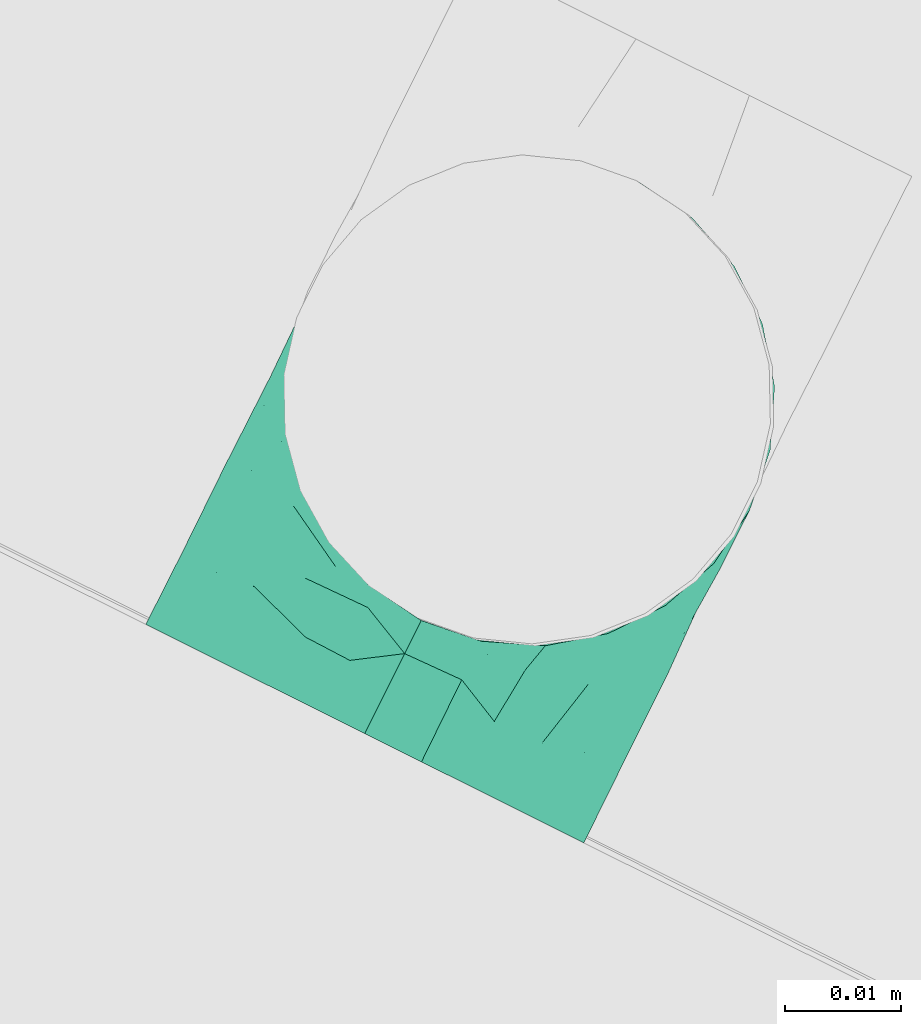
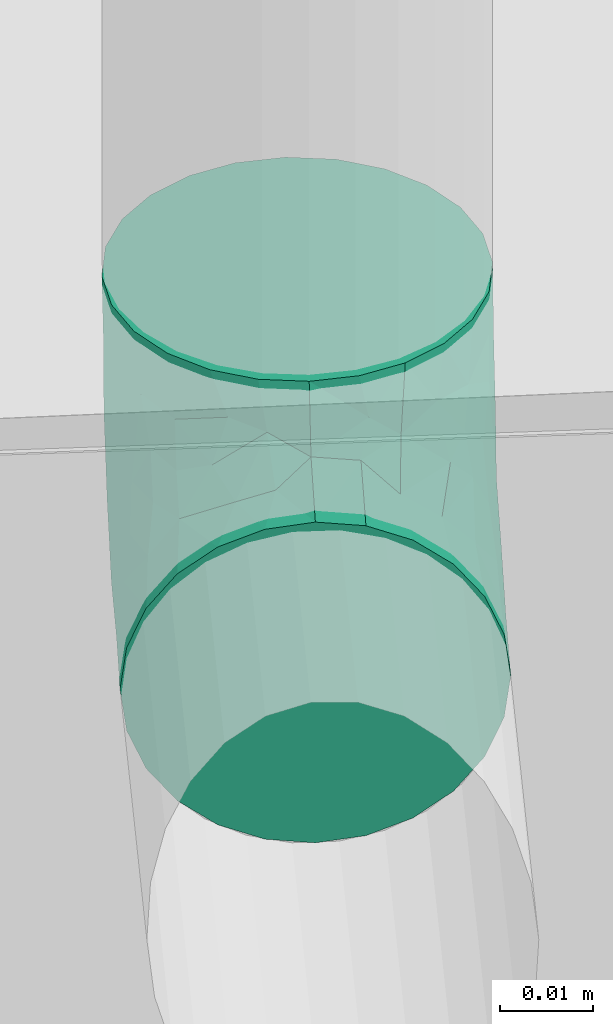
# One storey, part 45 of 47: 1 flow fitting.
"""IFC2X3 building model written with IfcOpenShell, lengths in metres."""

from ifc_helpers import new_model, entity, si_unit, converted_unit, derived_unit, direction, frame, origin, place, context, subcontext, project, spatial, faceted_brep, source, transform, mapped, type_object, type_shapes, element, save


model = new_model("IFC2X3")

# Units and contexts
model_context = context("Model", 3, precision=1e-05, world=origin(), true_north=direction((0.894925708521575, 0.446215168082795)))
context_of_model = context(None, 3, precision=1e-05, world=origin(), true_north=direction((0.894925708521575, 0.446215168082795)))
body_context = subcontext(model_context, "Body", "Model", "MODEL_VIEW")
ifc_project = project(units=[si_unit("LENGTHUNIT", "METRE"), si_unit("AREAUNIT", "SQUARE_METRE"), si_unit("VOLUMEUNIT", "CUBIC_METRE"), converted_unit("PLANEANGLEUNIT", "DEGREE", entity("IfcRatioMeasure", 0.0174532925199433), si_unit("PLANEANGLEUNIT", "RADIAN"), dimensions=[0, 0, 0, 0, 0, 0, 0]), si_unit("MASSUNIT", "GRAM", prefix="KILO"), si_unit("TIMEUNIT", "SECOND"), si_unit("FREQUENCYUNIT", "HERTZ"), si_unit("THERMODYNAMICTEMPERATUREUNIT", "DEGREE_CELSIUS"), derived_unit("THERMALTRANSMITTANCEUNIT", [(si_unit("MASSUNIT", "GRAM", prefix="KILO"), 1), (si_unit("THERMODYNAMICTEMPERATUREUNIT", "KELVIN"), -1), (si_unit("TIMEUNIT", "SECOND"), -3)]), derived_unit("VOLUMETRICFLOWRATEUNIT", [(si_unit("LENGTHUNIT", "METRE"), 3), (si_unit("TIMEUNIT", "SECOND"), -1)]), si_unit("ELECTRICCURRENTUNIT", "AMPERE"), si_unit("ELECTRICVOLTAGEUNIT", "VOLT"), si_unit("POWERUNIT", "WATT"), si_unit("FORCEUNIT", "NEWTON", prefix="KILO"), si_unit("ILLUMINANCEUNIT", "LUX"), si_unit("LUMINOUSFLUXUNIT", "LUMEN"), si_unit("LUMINOUSINTENSITYUNIT", "CANDELA"), si_unit("PRESSUREUNIT", "PASCAL")], contexts=[model_context, context_of_model])

# Site, building, storey
site_placement = place(None, frame((218.228324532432, 584.720189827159, 0.0), z_axis=(0.0, 0.0, 1.0), x_axis=(0.446215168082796, 0.894925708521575, 0.0)))
site = spatial("IfcSite", under=ifc_project, at=site_placement, Name="Default", CompositionType="ELEMENT")
building_placement = place(site_placement, origin())
building = spatial("IfcBuilding", under=site, at=building_placement, CompositionType="ELEMENT")
storey_placement = place(building_placement, frame((0.0, 0.0, 4.69)))
storey = spatial("IfcBuildingStorey", under=building, at=storey_placement, Name="1 - Piano Primo", CompositionType="ELEMENT", Elevation=4.69)

# Flow fitting
pipe_fitting_type = type_object("IfcPipeFittingType", Name="Standard", PredefinedType="NOTDEFINED")
shared_shape = source(origin(), body_context, "Body", "Brep", [
    faceted_brep([(-0.0319999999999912, 0.0105499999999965, -0.0182731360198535), (-0.0319999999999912, 0.00546108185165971, -0.0203810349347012), (-0.0319999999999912, 0.0, -0.0211000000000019), (-0.0319999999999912, -0.00546108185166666, -0.0203810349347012), (-0.0319999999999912, -0.0105500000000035, -0.0182731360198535), (-0.0319999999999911, -0.0149199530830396, -0.0149199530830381), (-0.0319999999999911, -0.0182731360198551, -0.0105500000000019), (-0.0319999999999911, -0.0203810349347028, -0.00546108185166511), (-0.0319999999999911, -0.0211000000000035, 0.0), (-0.0319999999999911, -0.0203810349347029, 0.00546108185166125), (-0.0319999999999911, -0.0182731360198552, 0.0105499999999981), (-0.0319999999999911, -0.0149199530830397, 0.0149199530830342), (-0.0319999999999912, -0.0105500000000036, 0.0182731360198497), (-0.0319999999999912, -0.00546108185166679, 0.0203810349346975), (-0.0319999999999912, 0.0, 0.0210999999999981), (-0.0319999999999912, 0.00546108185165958, 0.0203810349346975), (-0.0319999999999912, 0.00800554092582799, 0.0193270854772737), (-0.0319999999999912, 0.0105499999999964, 0.0182731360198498), (-0.0319999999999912, 0.0149199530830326, 0.0149199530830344), (-0.0319999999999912, 0.0182731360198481, 0.0105499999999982), (-0.0319999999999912, 0.0203810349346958, 0.00546108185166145), (-0.0319999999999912, 0.0210999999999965, 0.0), (-0.0319999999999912, 0.0203810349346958, -0.00546108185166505), (-0.0319999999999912, 0.0182731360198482, -0.0105500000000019), (-0.0319999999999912, 0.0149199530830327, -0.014919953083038), (4.33611531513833e-07, 0.0319999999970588, -0.0211000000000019), (-0.00546064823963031, 0.0320000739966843, -0.0203810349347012), (-0.0105495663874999, 0.0320001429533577, -0.0182731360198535), (-0.0149195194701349, 0.0320002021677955, -0.014919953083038), (-0.0182727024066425, 0.0320002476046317, -0.0105500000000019), (-0.0203806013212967, 0.032000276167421, -0.00546108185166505), (-0.0210995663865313, 0.0320002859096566, 0.0), (-0.0203806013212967, 0.032000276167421, 0.00546108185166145), (-0.0182727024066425, 0.0320002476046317, 0.0105499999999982), (-0.0149195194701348, 0.0320002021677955, 0.0149199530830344), (-0.0105495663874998, 0.0320001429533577, 0.0182731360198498), (-0.008005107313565, 0.032000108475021, 0.0193270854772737), (-0.00546064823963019, 0.0320000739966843, 0.0203810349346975), (4.33611531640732e-07, 0.0319999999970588, 0.0210999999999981), (0.00546151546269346, 0.0319999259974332, 0.0203810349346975), (0.0105504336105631, 0.0319998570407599, 0.0182731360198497), (0.014920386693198, 0.031999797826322, 0.0149199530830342), (0.0165969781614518, 0.0319997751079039, 0.0127349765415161), (0.0182735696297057, 0.0319997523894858, 0.0105499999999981), (0.0203814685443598, 0.0319997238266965, 0.00546108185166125), (0.0211004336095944, 0.031999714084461, 0.0), (0.0203814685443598, 0.0319997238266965, -0.00546108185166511), (0.0182735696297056, 0.0319997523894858, -0.0105500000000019), (0.0149203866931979, 0.031999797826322, -0.0149199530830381), (0.010550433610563, 0.0319998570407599, -0.0182731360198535), (0.00546151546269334, 0.0319999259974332, -0.0203810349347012), (-0.00222576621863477, 0.0237283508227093, 0.0210713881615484), (0.00334070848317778, 0.0236614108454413, 0.0206549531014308), (-0.00900618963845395, -0.00960560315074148, 0.0142766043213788), (-0.0209291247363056, -0.0130217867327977, 0.0154568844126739), (-0.0145906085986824, -0.0153912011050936, 0.0101692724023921), (-0.0217190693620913, -0.0190550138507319, 0.0), (-0.0220280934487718, -0.0191631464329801, 0.00633716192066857), (0.0170982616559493, 0.0147215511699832, 0.00657466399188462), (0.0192917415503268, 0.0230464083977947, 0.00652116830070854), (0.0165177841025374, 0.0200570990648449, 0.0110653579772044), (-0.0238199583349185, -0.0169139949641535, 0.0116484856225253), (0.00422150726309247, 0.00733563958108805, 0.0174775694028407), (-0.00183896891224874, -0.00157276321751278, 0.0165162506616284), (0.00494814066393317, 0.000860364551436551, 0.0133740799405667), (-0.023109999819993, -0.00858346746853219, 0.0188172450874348), (-0.0268497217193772, 0.00624648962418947, 0.0203052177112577), (-0.0237283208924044, 0.0022260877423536, 0.0210713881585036), (0.00636958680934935, -0.00389630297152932, 0.00481660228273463), (0.0088577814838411, 0.00100415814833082, 0.0085629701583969), (0.00317400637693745, -0.00493626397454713, 0.00916672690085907), (0.0190553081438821, 0.0217188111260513, 0.0), (-0.0249753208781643, 0.0127272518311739, 0.0176991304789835), (-0.0219437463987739, 0.00803539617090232, 0.0202256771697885), (-0.00803509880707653, 0.02194385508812, 0.0202256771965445), (-0.012726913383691, 0.0249754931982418, 0.0176991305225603), (-0.0135010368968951, 0.0178000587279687, 0.0192321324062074), (-0.0259093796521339, 0.016931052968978, 0.0140445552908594), (-0.0243637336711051, -0.0033650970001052, 0.0206817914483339), (-0.00831796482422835, -0.00215598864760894, 0.0188085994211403), (-0.0155457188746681, -0.00207477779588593, 0.0202758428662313), (-0.0149618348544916, -0.00661976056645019, 0.0184646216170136), (-0.0241166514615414, 0.0234835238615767, 0.00540850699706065), (-0.0260760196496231, 0.0202340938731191, 0.00952656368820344), (0.0131869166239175, 0.0228301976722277, 0.0156903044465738), (0.0177601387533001, 0.0259909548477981, 0.0108087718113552), (-0.0196181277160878, 0.0196183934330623, 0.0153381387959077), (0.00836728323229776, 0.0205043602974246, 0.0185949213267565), (-0.00542598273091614, 0.0157916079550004, 0.0210819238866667), (-0.0119914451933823, 0.0119916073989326, 0.0207723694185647), (-0.00791444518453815, 0.0058374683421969, 0.0207973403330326), (-0.000718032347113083, -0.00512207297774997, 0.0130949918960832), (-0.015791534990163, 0.00542619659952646, 0.0210819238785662), (-0.0175403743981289, 0.0125521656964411, 0.0196189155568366), (-0.00624612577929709, 0.0268498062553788, 0.0203052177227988), (-0.00306604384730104, -0.011302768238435, 0.0), (0.000545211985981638, -0.00927170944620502, 0.00474380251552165), (-0.00924004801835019, -0.0152714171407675, 0.00513666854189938), (-0.00250083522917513, 0.0039639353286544, 0.0192244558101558), (0.0111875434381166, 0.0121561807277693, 0.0142859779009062), (0.0142349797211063, 0.0135199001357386, 0.0113439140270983), (-0.0211733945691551, 0.027053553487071, 0.00642748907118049), (0.0170581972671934, 0.0116792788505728, 0.0), (-0.0209430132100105, 0.0244620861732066, 0.00992833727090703), (-0.0169307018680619, 0.0259096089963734, 0.0140445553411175), (0.00815760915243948, 0.0134414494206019, 0.0171881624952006), (0.00158989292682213, 0.0138946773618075, 0.0201812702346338), (-0.0242922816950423, 0.0242926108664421, 0.0), (-0.0156136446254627, -0.0173765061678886, 0.00665048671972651), (-0.0116795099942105, -0.017058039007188, 0.0), (0.00554742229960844, -0.00554749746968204, 0.0), (0.0113028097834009, 0.00306589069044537, 0.0), (0.0108451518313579, 0.00147665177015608, 0.00454025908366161), (0.0112958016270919, 0.00704561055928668, 0.0110547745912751), (-0.0180943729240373, 0.0165445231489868, 0.0178759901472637), (-0.0049788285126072, -0.0112745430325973, 0.00913950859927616), (-0.00893539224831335, -0.00624332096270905, 0.0168799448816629), (-0.0156913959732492, 0.0210349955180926, 0.0171094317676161), (-0.00342673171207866, 0.0112044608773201, 0.0208340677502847), (0.0134913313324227, 0.00703874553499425, 0.00704448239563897), (0.0084159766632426, 0.00627794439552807, 0.0138630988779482), (0.0139149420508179, 0.0140601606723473, -0.0120869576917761), (0.0170732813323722, 0.0143993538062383, -0.00631169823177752), (0.0133972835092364, 0.00669056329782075, -0.00679613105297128), (-0.0167699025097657, 0.00347567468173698, -0.0210973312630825), (-0.0230300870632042, 0.00785306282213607, -0.0201559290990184), (-0.0147343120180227, 0.0101849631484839, -0.0206819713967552), (-0.0249600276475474, 0.00216545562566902, -0.0210570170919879), (-0.0269234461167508, 0.0219306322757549, -0.0039689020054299), (-0.0108638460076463, -0.00653020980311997, -0.0173921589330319), (-0.0194617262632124, -0.00823409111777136, -0.0185024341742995), (-0.0125597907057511, -0.00220697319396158, -0.0197802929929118), (-0.0268337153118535, 0.0205122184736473, -0.0082881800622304), (-0.0248836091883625, 0.017183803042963, -0.0142474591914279), (-0.0228720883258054, -0.0192709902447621, -0.00648975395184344), (-0.0193464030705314, -0.0164084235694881, -0.0109523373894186), (-0.014399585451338, -0.0170730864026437, -0.0063116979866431), (-0.0266001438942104, -0.0170138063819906, -0.0120648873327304), (-0.00785275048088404, 0.0230301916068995, -0.0201559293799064), (-0.0252597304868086, 0.0126865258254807, -0.0176618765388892), (-0.0230840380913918, -0.00331004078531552, -0.0206322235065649), (-0.0200190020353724, 0.0119074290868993, -0.0192649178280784), (-0.0225714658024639, -0.0131689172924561, -0.0156588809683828), (0.0164086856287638, 0.0193461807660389, -0.0109523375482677), (0.0170141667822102, 0.026599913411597, -0.0120648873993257), (0.0192713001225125, 0.0228718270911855, -0.00648975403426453), (-0.0105317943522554, -0.0106441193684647, -0.0140486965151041), (-0.0171834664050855, 0.0248838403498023, -0.0142474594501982), (-0.0266864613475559, -0.00861264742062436, -0.0191036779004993), (0.00331035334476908, 0.0230839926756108, -0.020632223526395), (-0.0222935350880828, 0.0222938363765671, -0.0105496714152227), (-0.0203533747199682, 0.0203536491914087, -0.0142844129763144), (-0.0221524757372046, 0.0262370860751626, -0.00460948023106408), (-0.0080782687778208, 0.00807837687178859, -0.0210204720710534), (-0.0126861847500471, 0.0252599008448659, -0.0176618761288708), (-0.00216511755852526, 0.0249600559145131, -0.0210570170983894), (0.0131692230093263, 0.0225712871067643, -0.0156588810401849), (-0.0202230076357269, 0.0270428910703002, -0.00870082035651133), (0.00220714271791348, 0.0125597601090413, -0.0197802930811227), (0.00404628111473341, 0.00564692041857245, -0.0168859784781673), (-0.00350668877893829, 0.00350673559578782, -0.0194009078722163), (0.00861300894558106, 0.0266863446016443, -0.0191036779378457), (0.00823435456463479, 0.0194616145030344, -0.0185024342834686), (0.00902982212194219, 0.00178441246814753, -0.00926923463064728), (0.00883203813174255, -0.00110669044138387, -0.00471251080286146), (-0.00347544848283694, 0.0167699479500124, -0.021097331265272), (0.0120395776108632, 0.00786598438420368, -0.0106438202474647), (-0.00166025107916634, -0.00597198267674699, -0.0130196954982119), (-0.00858658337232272, -0.0124341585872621, -0.0106324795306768), (0.0106442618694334, 0.0105316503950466, -0.0140486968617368), (0.00627845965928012, 0.0123276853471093, -0.0179829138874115), (-0.0164379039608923, 0.0206141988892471, -0.0168365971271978), (-0.0160855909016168, 0.0160858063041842, -0.0188434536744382), (-0.0206139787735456, 0.0164381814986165, -0.0168365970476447), (-0.0106152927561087, 0.0161950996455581, -0.0203949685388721), (-0.00669074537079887, -0.0133971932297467, -0.00679613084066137), (0.00175974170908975, -0.00801864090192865, -0.00555190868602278), (-0.00301891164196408, -0.00338562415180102, -0.0160142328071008), (0.00342818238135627, -0.00342822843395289, -0.0108394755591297), (-0.00242982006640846, -0.00914605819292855, -0.00983181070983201), (-0.00670251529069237, -0.00186848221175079, -0.0184301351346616), (0.00640787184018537, 0.00275680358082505, -0.0134309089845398)], [[[0, 1, 2, 3, 4, 5, 6, 7, 8, 9, 10, 11, 12, 13, 14, 15, 16, 17, 18, 19, 20, 21, 22, 23, 24]], [[25, 26, 27, 28, 29, 30, 31, 32, 33, 34, 35, 36, 37, 38, 39, 40, 41, 42, 43, 44, 45, 46, 47, 48, 49, 50]], [[38, 51, 52]], [[53, 54, 55]], [[9, 56, 57]], [[58, 59, 60]], [[61, 11, 10]], [[9, 8, 56]], [[62, 63, 64]], [[54, 11, 61]], [[54, 65, 12]], [[17, 16, 15, 66]], [[15, 14, 67]], [[68, 69, 70]], [[45, 44, 71]], [[72, 66, 73]], [[74, 75, 76]], [[77, 19, 18]], [[78, 14, 13]], [[66, 72, 17]], [[79, 80, 81]], [[82, 20, 83]], [[84, 85, 41]], [[21, 20, 82]], [[83, 77, 86]], [[87, 84, 40]], [[72, 18, 17]], [[88, 89, 90]], [[70, 64, 91]], [[73, 92, 93]], [[39, 38, 52]], [[73, 67, 92]], [[84, 41, 40]], [[40, 39, 87]], [[36, 35, 94, 37]], [[59, 44, 43]], [[95, 96, 97]], [[35, 34, 75]], [[63, 62, 98]], [[42, 41, 85, 43]], [[64, 70, 69]], [[74, 88, 51]], [[99, 100, 84]], [[101, 33, 32]], [[59, 102, 71]], [[103, 86, 104]], [[105, 106, 62]], [[82, 101, 107]], [[9, 57, 10]], [[94, 35, 75]], [[77, 83, 19]], [[97, 108, 109]], [[34, 33, 104]], [[51, 38, 37]], [[107, 101, 31]], [[12, 65, 13]], [[54, 12, 11]], [[110, 111, 112]], [[100, 99, 113]], [[109, 57, 56]], [[57, 108, 61]], [[104, 75, 34]], [[74, 76, 89]], [[88, 74, 89]], [[106, 87, 52]], [[78, 67, 14]], [[80, 90, 92]], [[93, 89, 76]], [[72, 114, 77]], [[70, 91, 115]], [[63, 79, 116]], [[115, 53, 55]], [[70, 96, 68]], [[58, 60, 100]], [[71, 44, 59]], [[84, 87, 105]], [[81, 54, 53]], [[65, 81, 78]], [[106, 52, 51]], [[87, 39, 52]], [[103, 104, 33]], [[104, 86, 117]], [[72, 77, 18]], [[83, 86, 103]], [[82, 83, 103]], [[20, 19, 83]], [[57, 61, 10]], [[54, 61, 55]], [[101, 82, 103]], [[82, 107, 21]], [[65, 78, 13]], [[67, 78, 80]], [[86, 114, 117]], [[114, 72, 93]], [[92, 89, 93]], [[106, 51, 88]], [[98, 79, 63]], [[118, 88, 90]], [[80, 92, 67]], [[90, 89, 92]], [[119, 102, 58]], [[102, 59, 58]], [[114, 93, 76]], [[72, 73, 93]], [[55, 97, 115]], [[96, 70, 115]], [[108, 97, 55]], [[96, 110, 68]], [[95, 97, 109]], [[97, 96, 115]], [[110, 96, 95]], [[112, 119, 69]], [[68, 112, 69]], [[119, 113, 69]], [[102, 119, 111]], [[64, 63, 91]], [[113, 64, 69]], [[118, 98, 106]], [[113, 120, 64]], [[62, 120, 105]], [[119, 58, 100]], [[113, 99, 120]], [[100, 113, 119]], [[84, 100, 60]], [[110, 112, 68]], [[111, 119, 112]], [[117, 76, 75]], [[114, 86, 77]], [[76, 117, 114]], [[104, 117, 75]], [[106, 98, 62]], [[79, 90, 80]], [[90, 79, 98]], [[78, 81, 80]], [[54, 81, 65]], [[116, 79, 81]], [[105, 120, 99]], [[62, 64, 120]], [[116, 91, 63]], [[115, 91, 53]], [[81, 53, 116]], [[116, 53, 91]], [[94, 75, 74]], [[74, 51, 94]], [[51, 37, 94]], [[73, 66, 67]], [[15, 67, 66]], [[85, 84, 60]], [[60, 59, 85]], [[59, 43, 85]], [[33, 101, 103]], [[31, 101, 32]], [[98, 118, 90]], [[106, 88, 118]], [[61, 108, 55]], [[109, 108, 57]], [[84, 105, 99]], [[106, 105, 87]], [[121, 122, 123]], [[124, 125, 126]], [[124, 127, 125]], [[127, 2, 1]], [[21, 128, 22]], [[129, 130, 131]], [[132, 133, 23]], [[134, 135, 136]], [[24, 23, 133]], [[5, 137, 6]], [[26, 138, 27]], [[0, 24, 139]], [[109, 56, 134]], [[140, 3, 2]], [[134, 7, 6]], [[125, 141, 126]], [[142, 5, 4]], [[143, 144, 145]], [[135, 142, 146]], [[29, 28, 147]], [[137, 134, 6]], [[4, 148, 142]], [[148, 140, 130]], [[148, 4, 3]], [[50, 149, 25]], [[130, 140, 131]], [[21, 107, 128]], [[150, 151, 133]], [[31, 30, 152]], [[46, 45, 71]], [[126, 153, 124]], [[132, 22, 128]], [[154, 147, 28]], [[26, 155, 138]], [[26, 25, 155]], [[48, 156, 49]], [[144, 48, 47]], [[150, 157, 147]], [[158, 159, 160]], [[161, 149, 50]], [[161, 156, 162]], [[125, 1, 0]], [[163, 123, 164]], [[165, 149, 158]], [[157, 150, 152]], [[161, 50, 49]], [[139, 24, 133]], [[145, 122, 143]], [[121, 123, 166]], [[56, 8, 7]], [[146, 167, 168]], [[169, 162, 156]], [[159, 158, 170]], [[47, 46, 145]], [[171, 172, 173]], [[150, 132, 152]], [[28, 27, 154]], [[165, 153, 174]], [[151, 150, 147]], [[139, 141, 125]], [[123, 102, 111]], [[95, 175, 176]], [[164, 123, 111]], [[159, 177, 160]], [[178, 176, 179]], [[178, 164, 176]], [[144, 156, 48]], [[156, 143, 121]], [[158, 149, 162]], [[155, 149, 165]], [[170, 169, 159]], [[158, 160, 153]], [[146, 142, 130]], [[137, 142, 135]], [[127, 140, 2]], [[124, 153, 131]], [[124, 131, 140]], [[180, 129, 131]], [[168, 136, 135]], [[56, 7, 134]], [[46, 71, 145]], [[102, 145, 71]], [[27, 138, 154]], [[154, 138, 174]], [[173, 133, 151]], [[125, 0, 139]], [[169, 166, 181]], [[178, 179, 167]], [[177, 159, 181]], [[146, 130, 129]], [[125, 127, 1]], [[140, 127, 124]], [[149, 155, 25]], [[138, 155, 165]], [[174, 126, 172]], [[126, 174, 153]], [[158, 153, 165]], [[131, 153, 160]], [[175, 109, 136]], [[109, 134, 136]], [[145, 102, 122]], [[102, 123, 122]], [[152, 128, 107]], [[128, 152, 132]], [[31, 152, 107]], [[152, 30, 157]], [[133, 132, 150]], [[23, 22, 132]], [[30, 29, 157]], [[147, 157, 29]], [[154, 174, 172]], [[165, 174, 138]], [[176, 164, 110]], [[164, 111, 110]], [[163, 164, 178]], [[95, 109, 175]], [[176, 175, 179]], [[176, 110, 95]], [[181, 163, 178]], [[166, 123, 163]], [[181, 178, 167]], [[169, 181, 159]], [[181, 166, 163]], [[121, 166, 169]], [[156, 121, 169]], [[122, 121, 143]], [[168, 179, 175]], [[167, 146, 177]], [[136, 168, 175]], [[135, 146, 168]], [[167, 179, 168]], [[181, 167, 177]], [[180, 131, 160]], [[146, 129, 177]], [[160, 177, 180]], [[177, 129, 180]], [[156, 161, 49]], [[149, 161, 162]], [[145, 144, 47]], [[156, 144, 143]], [[140, 148, 3]], [[142, 148, 130]], [[142, 137, 5]], [[134, 137, 135]], [[171, 151, 147]], [[151, 171, 173]], [[147, 154, 171]], [[154, 172, 171]], [[141, 173, 172]], [[139, 133, 173]], [[173, 141, 139]], [[126, 141, 172]], [[158, 162, 170]], [[169, 170, 162]]]),
])
type_shapes(pipe_fitting_type, [shared_shape])
flow_fitting_placement = place(storey_placement, frame((66.9689473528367, -1.7738772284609, 2.96000005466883), z_axis=(0.0, -0.999999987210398, 0.000159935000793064), x_axis=(1.0, 0.0, 0.0)))
element("IfcFlowFitting", 1, at=flow_fitting_placement, inside=storey, type_object=pipe_fitting_type, Name="M_Gomito - Saldato - Generico:Standard", ObjectType="Standard", context=body_context, shape_type="MappedRepresentation", body=[
    mapped(shared_shape, transform((0.0, 0.0, 0.0), scale=1.0)),
])

save(model, "model.ifc")
